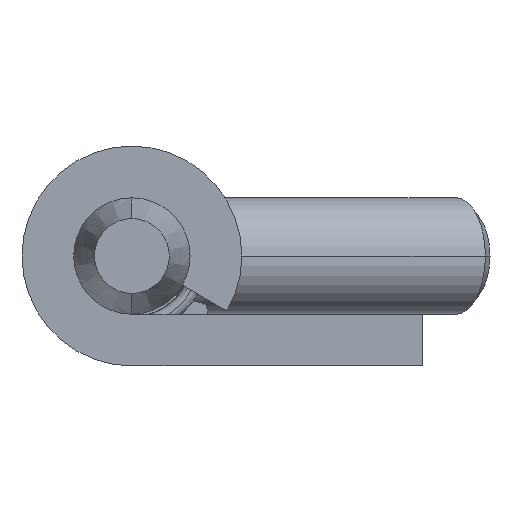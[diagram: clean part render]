
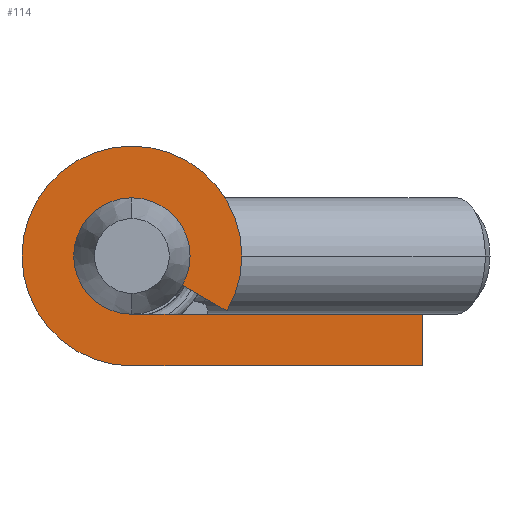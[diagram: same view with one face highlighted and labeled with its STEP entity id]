
A CAD part, left-side view. The second image highlights one B-rep face of the part: STEP entity #114.
In plain terms, the highlighted planar face has unit normal (-1, 0, 0).
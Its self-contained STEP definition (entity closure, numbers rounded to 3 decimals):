
#4 = ORIENTED_EDGE ( 'NONE', *, *, #4694, .F. ) ;
#114 = ADVANCED_FACE ( 'NONE', ( #370 ), #1981, .F. ) ;
#117 = AXIS2_PLACEMENT_3D ( 'NONE', #1945, #1848, #1839 ) ;
#166 = VECTOR ( 'NONE', #2727, 1000. ) ;
#304 = ORIENTED_EDGE ( 'NONE', *, *, #565, .F. ) ;
#370 = FACE_OUTER_BOUND ( 'NONE', #4212, .T. ) ;
#377 = AXIS2_PLACEMENT_3D ( 'NONE', #4528, #4490, #4466 ) ;
#565 = EDGE_CURVE ( 'NONE', #5504, #1482, #3209, .T. ) ;
#852 = EDGE_CURVE ( 'NONE', #4195, #4551, #1380, .T. ) ;
#926 = CIRCLE ( 'NONE', #5099, 4.25 ) ;
#983 = ORIENTED_EDGE ( 'NONE', *, *, #1020, .F. ) ;
#1020 = EDGE_CURVE ( 'NONE', #4220, #1476, #3279, .T. ) ;
#1056 = CARTESIAN_POINT ( 'NONE',  ( 0., 0., 0. ) ) ;
#1330 = CARTESIAN_POINT ( 'NONE',  ( 0., 11.25, 0. ) ) ;
#1338 = ORIENTED_EDGE ( 'NONE', *, *, #5315, .F. ) ;
#1380 = LINE ( 'NONE', #2668, #2387 ) ;
#1476 = VERTEX_POINT ( 'NONE', #2539 ) ;
#1482 = VERTEX_POINT ( 'NONE', #4686 ) ;
#1563 = EDGE_CURVE ( 'NONE', #4551, #1588, #4948, .T. ) ;
#1588 = VERTEX_POINT ( 'NONE', #1056 ) ;
#1816 = DIRECTION ( 'NONE',  ( 0., 0., 1. ) ) ;
#1836 = DIRECTION ( 'NONE',  ( 1., 0., 0. ) ) ;
#1839 = DIRECTION ( 'NONE',  ( 0., 0., -1. ) ) ;
#1848 = DIRECTION ( 'NONE',  ( 1., 0., 0. ) ) ;
#1856 = CARTESIAN_POINT ( 'NONE',  ( 0., 11.25, 4.25 ) ) ;
#1945 = CARTESIAN_POINT ( 'NONE',  ( 0., 0., 2. ) ) ;
#1981 = PLANE ( 'NONE',  #117 ) ;
#2149 = ORIENTED_EDGE ( 'NONE', *, *, #5592, .F. ) ;
#2299 = CARTESIAN_POINT ( 'NONE',  ( 0., 0., 2. ) ) ;
#2380 = CARTESIAN_POINT ( 'NONE',  ( 0., 11.25, 4.25 ) ) ;
#2385 = CIRCLE ( 'NONE', #3042, 2.25 ) ;
#2387 = VECTOR ( 'NONE', #2814, 1000. ) ;
#2505 = AXIS2_PLACEMENT_3D ( 'NONE', #1856, #1836, #1816 ) ;
#2539 = CARTESIAN_POINT ( 'NONE',  ( 0., 11.25, 8.5 ) ) ;
#2586 = CARTESIAN_POINT ( 'NONE',  ( 0., 11.25, 4.25 ) ) ;
#2604 = LINE ( 'NONE', #4639, #166 ) ;
#2653 = VECTOR ( 'NONE', #3799, 1000. ) ;
#2661 = VECTOR ( 'NONE', #5317, 1000. ) ;
#2668 = CARTESIAN_POINT ( 'NONE',  ( 0., 0., 2. ) ) ;
#2712 = CARTESIAN_POINT ( 'NONE',  ( 0., 7.569, 2.125 ) ) ;
#2727 = DIRECTION ( 'NONE',  ( 0., 1., 0. ) ) ;
#2772 = CARTESIAN_POINT ( 'NONE',  ( 0., 9.301, 3.125 ) ) ;
#2814 = DIRECTION ( 'NONE',  ( 0., -1., 0. ) ) ;
#2833 = DIRECTION ( 'NONE',  ( 0., 0., 1. ) ) ;
#3035 = DIRECTION ( 'NONE',  ( 0., 0., 1. ) ) ;
#3042 = AXIS2_PLACEMENT_3D ( 'NONE', #2586, #5594, #3035 ) ;
#3093 = ORIENTED_EDGE ( 'NONE', *, *, #852, .F. ) ;
#3209 = CIRCLE ( 'NONE', #377, 2.25 ) ;
#3279 = CIRCLE ( 'NONE', #2505, 4.25 ) ;
#3422 = CARTESIAN_POINT ( 'NONE',  ( 0., 0., 2. ) ) ;
#3623 = ORIENTED_EDGE ( 'NONE', *, *, #1563, .F. ) ;
#3761 = VERTEX_POINT ( 'NONE', #2712 ) ;
#3790 = LINE ( 'NONE', #4365, #2653 ) ;
#3799 = DIRECTION ( 'NONE',  ( 0., 0.866, 0.5 ) ) ;
#3888 = CARTESIAN_POINT ( 'NONE',  ( 0., 11.25, 2. ) ) ;
#4195 = VERTEX_POINT ( 'NONE', #3888 ) ;
#4212 = EDGE_LOOP ( 'NONE', ( #3093, #4, #304, #5529, #2149, #983, #1338, #3623 ) ) ;
#4220 = VERTEX_POINT ( 'NONE', #1330 ) ;
#4365 = CARTESIAN_POINT ( 'NONE',  ( 0., 7.569, 2.125 ) ) ;
#4433 = EDGE_CURVE ( 'NONE', #3761, #5504, #3790, .T. ) ;
#4466 = DIRECTION ( 'NONE',  ( 0., 0., 1. ) ) ;
#4490 = DIRECTION ( 'NONE',  ( -1., 0., 0. ) ) ;
#4528 = CARTESIAN_POINT ( 'NONE',  ( 0., 11.25, 4.25 ) ) ;
#4551 = VERTEX_POINT ( 'NONE', #3422 ) ;
#4639 = CARTESIAN_POINT ( 'NONE',  ( 0., 15.5, 0. ) ) ;
#4686 = CARTESIAN_POINT ( 'NONE',  ( 0., 11.25, 6.5 ) ) ;
#4694 = EDGE_CURVE ( 'NONE', #1482, #4195, #2385, .T. ) ;
#4948 = LINE ( 'NONE', #2299, #2661 ) ;
#5099 = AXIS2_PLACEMENT_3D ( 'NONE', #2380, #5385, #2833 ) ;
#5315 = EDGE_CURVE ( 'NONE', #1588, #4220, #2604, .T. ) ;
#5317 = DIRECTION ( 'NONE',  ( 0., 0., -1. ) ) ;
#5385 = DIRECTION ( 'NONE',  ( 1., 0., 0. ) ) ;
#5504 = VERTEX_POINT ( 'NONE', #2772 ) ;
#5529 = ORIENTED_EDGE ( 'NONE', *, *, #4433, .F. ) ;
#5592 = EDGE_CURVE ( 'NONE', #1476, #3761, #926, .T. ) ;
#5594 = DIRECTION ( 'NONE',  ( -1., 0., 0. ) ) ;
